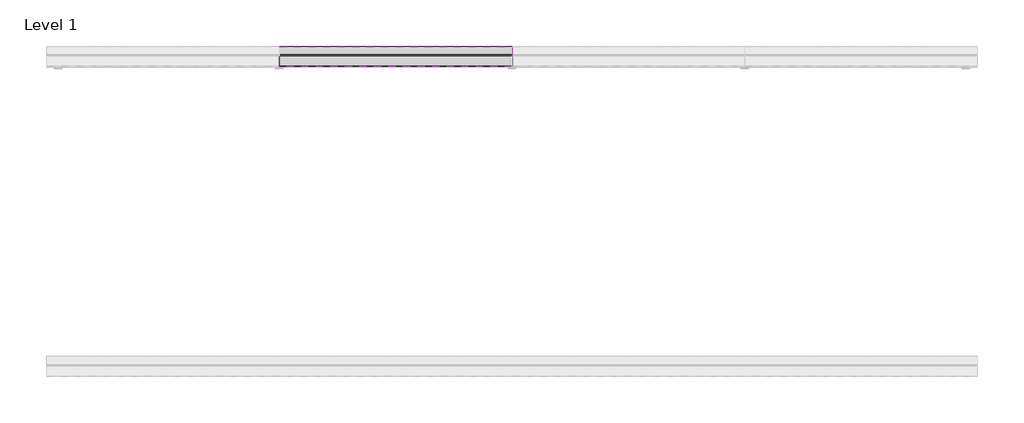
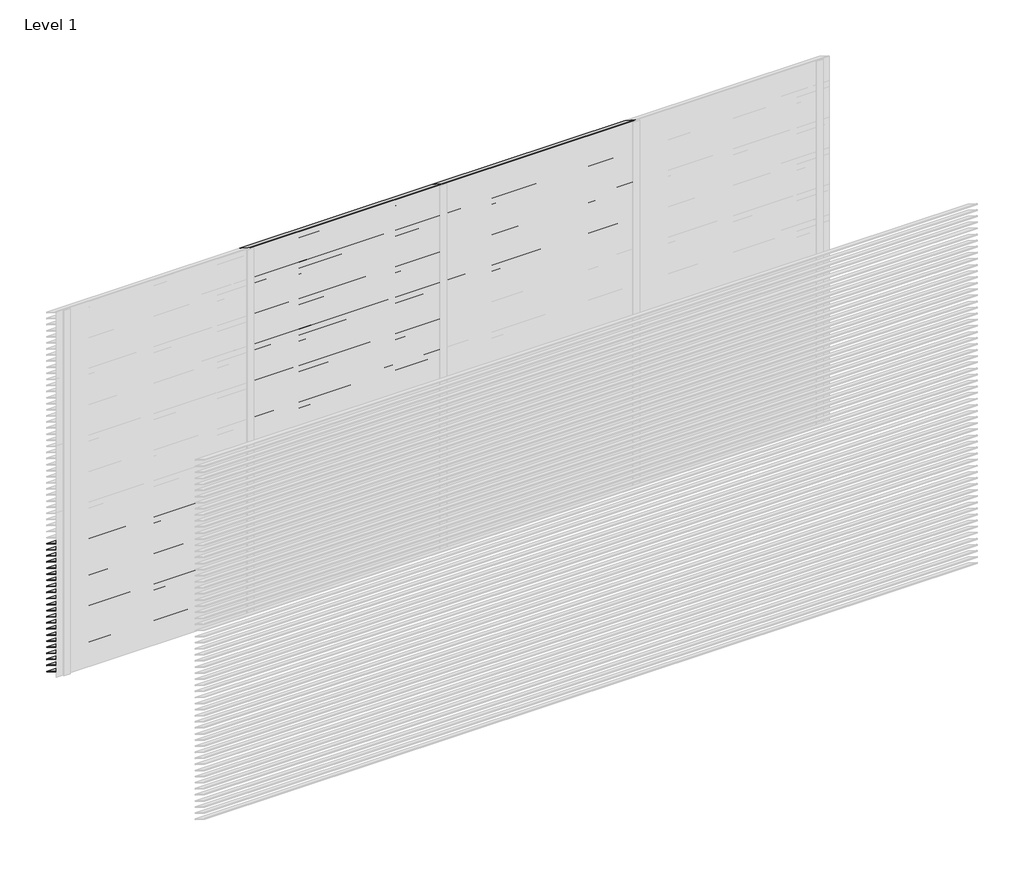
# One storey, part 12 of 13: 101 proxies.
"""IFC4 building model written with IfcOpenShell, lengths in millimetres."""

from ifc_helpers import new_model, si_unit, frame, origin, place, context, project, spatial, polyline, outline, extrude, element, save

model = new_model("IFC4")

# Units and contexts
model_context = context("Model", 3, world=origin())
ifc_project = project(units=[si_unit("LENGTHUNIT", "METRE", prefix="MILLI")], contexts=[model_context])

# Site, building, storey
site = spatial("IfcSite", under=ifc_project)
building = spatial("IfcBuilding", under=site)
storey = spatial("IfcBuildingStorey", under=building, Name="Level 1", Elevation=0.0)

# Proxies
placement = place(None, origin())
element("IfcBuildingElementProxy", 1, Name="Wall Sweeps", at=placement, inside=storey, context=model_context, shape_type="SweptSolid", body=[
    extrude(outline(polyline([(5.0, 1100.0), (5.0, 1098.0), (132.0, 1019.0), (132.0, 1013.0), (3.0, 1093.2440945), (3.0, 1100.0), (5.0, 1100.0)])), frame((0.0, 0.0, 0.0), z_axis=(1.0, 0.0, 0.0), x_axis=(0.0, 1.0, 0.0)), (0.0, 0.0, 1.0), 1500.0),
])
element("IfcBuildingElementProxy", 2, Name="Wall Sweeps", at=placement, inside=storey, context=model_context, shape_type="SweptSolid", body=[
    extrude(outline(polyline([(5.0, 1050.0), (5.0, 1048.0), (132.0, 969.0), (132.0, 963.0), (3.0, 1043.2440945), (3.0, 1050.0), (5.0, 1050.0)])), frame((0.0, 0.0, 0.0), z_axis=(1.0, 0.0, 0.0), x_axis=(0.0, 1.0, 0.0)), (0.0, 0.0, 1.0), 1500.0),
])
element("IfcBuildingElementProxy", 3, Name="Wall Sweeps", at=placement, inside=storey, context=model_context, shape_type="SweptSolid", body=[
    extrude(outline(polyline([(5.0, 1000.0), (5.0, 998.0), (132.0, 919.0), (132.0, 913.0), (3.0, 993.2440945), (3.0, 1000.0), (5.0, 1000.0)])), frame((0.0, 0.0, 0.0), z_axis=(1.0, 0.0, 0.0), x_axis=(0.0, 1.0, 0.0)), (0.0, 0.0, 1.0), 1500.0),
])
element("IfcBuildingElementProxy", 4, Name="Wall Sweeps", at=placement, inside=storey, context=model_context, shape_type="SweptSolid", body=[
    extrude(outline(polyline([(5.0, 950.0), (5.0, 948.0), (132.0, 869.0), (132.0, 863.0), (3.0, 943.2440945), (3.0, 950.0), (5.0, 950.0)])), frame((0.0, 0.0, 0.0), z_axis=(1.0, 0.0, 0.0), x_axis=(0.0, 1.0, 0.0)), (0.0, 0.0, 1.0), 1500.0),
])
element("IfcBuildingElementProxy", 5, Name="Wall Sweeps", at=placement, inside=storey, context=model_context, shape_type="SweptSolid", body=[
    extrude(outline(polyline([(5.0, 900.0), (5.0, 898.0), (132.0, 819.0), (132.0, 813.0), (3.0, 893.2440945), (3.0, 900.0), (5.0, 900.0)])), frame((0.0, 0.0, 0.0), z_axis=(1.0, 0.0, 0.0), x_axis=(0.0, 1.0, 0.0)), (0.0, 0.0, 1.0), 1500.0),
])
element("IfcBuildingElementProxy", 6, Name="Wall Sweeps", at=placement, inside=storey, context=model_context, shape_type="SweptSolid", body=[
    extrude(outline(polyline([(5.0, 850.0), (5.0, 848.0), (132.0, 769.0), (132.0, 763.0), (3.0, 843.2440945), (3.0, 850.0), (5.0, 850.0)])), frame((0.0, 0.0, 0.0), z_axis=(1.0, 0.0, 0.0), x_axis=(0.0, 1.0, 0.0)), (0.0, 0.0, 1.0), 1500.0),
])
element("IfcBuildingElementProxy", 7, Name="Wall Sweeps", at=placement, inside=storey, context=model_context, shape_type="SweptSolid", body=[
    extrude(outline(polyline([(5.0, 800.0), (5.0, 798.0), (132.0, 719.0), (132.0, 713.0), (3.0, 793.2440945), (3.0, 800.0), (5.0, 800.0)])), frame((0.0, 0.0, 0.0), z_axis=(1.0, 0.0, 0.0), x_axis=(0.0, 1.0, 0.0)), (0.0, 0.0, 1.0), 1500.0),
])
element("IfcBuildingElementProxy", 8, Name="Wall Sweeps", at=placement, inside=storey, context=model_context, shape_type="SweptSolid", body=[
    extrude(outline(polyline([(5.0, 750.0), (5.0, 748.0), (132.0, 669.0), (132.0, 663.0), (3.0, 743.2440945), (3.0, 750.0), (5.0, 750.0)])), frame((0.0, 0.0, 0.0), z_axis=(1.0, 0.0, 0.0), x_axis=(0.0, 1.0, 0.0)), (0.0, 0.0, 1.0), 1500.0),
])
element("IfcBuildingElementProxy", 9, Name="Wall Sweeps", at=placement, inside=storey, context=model_context, shape_type="SweptSolid", body=[
    extrude(outline(polyline([(5.0, 700.0), (5.0, 698.0), (132.0, 619.0), (132.0, 613.0), (3.0, 693.2440945), (3.0, 700.0), (5.0, 700.0)])), frame((0.0, 0.0, 0.0), z_axis=(1.0, 0.0, 0.0), x_axis=(0.0, 1.0, 0.0)), (0.0, 0.0, 1.0), 1500.0),
])
element("IfcBuildingElementProxy", 10, Name="Wall Sweeps", at=placement, inside=storey, context=model_context, shape_type="SweptSolid", body=[
    extrude(outline(polyline([(5.0, 650.0), (5.0, 648.0), (132.0, 569.0), (132.0, 563.0), (3.0, 643.2440945), (3.0, 650.0), (5.0, 650.0)])), frame((0.0, 0.0, 0.0), z_axis=(1.0, 0.0, 0.0), x_axis=(0.0, 1.0, 0.0)), (0.0, 0.0, 1.0), 1500.0),
])
element("IfcBuildingElementProxy", 11, Name="Wall Sweeps", at=placement, inside=storey, context=model_context, shape_type="SweptSolid", body=[
    extrude(outline(polyline([(5.0, 600.0), (5.0, 598.0), (132.0, 519.0), (132.0, 513.0), (3.0, 593.2440945), (3.0, 600.0), (5.0, 600.0)])), frame((0.0, 0.0, 0.0), z_axis=(1.0, 0.0, 0.0), x_axis=(0.0, 1.0, 0.0)), (0.0, 0.0, 1.0), 1500.0),
])
element("IfcBuildingElementProxy", 12, Name="Wall Sweeps", at=placement, inside=storey, context=model_context, shape_type="SweptSolid", body=[
    extrude(outline(polyline([(5.0, 550.0), (5.0, 548.0), (132.0, 469.0), (132.0, 463.0), (3.0, 543.2440945), (3.0, 550.0), (5.0, 550.0)])), frame((0.0, 0.0, 0.0), z_axis=(1.0, 0.0, 0.0), x_axis=(0.0, 1.0, 0.0)), (0.0, 0.0, 1.0), 1500.0),
])
element("IfcBuildingElementProxy", 13, Name="Wall Sweeps", at=placement, inside=storey, context=model_context, shape_type="SweptSolid", body=[
    extrude(outline(polyline([(5.0, 500.0), (5.0, 498.0), (132.0, 419.0), (132.0, 413.0), (3.0, 493.2440945), (3.0, 500.0), (5.0, 500.0)])), frame((0.0, 0.0, 0.0), z_axis=(1.0, 0.0, 0.0), x_axis=(0.0, 1.0, 0.0)), (0.0, 0.0, 1.0), 1500.0),
])
element("IfcBuildingElementProxy", 14, Name="Wall Sweeps", at=placement, inside=storey, context=model_context, shape_type="SweptSolid", body=[
    extrude(outline(polyline([(5.0, 450.0), (5.0, 448.0), (132.0, 369.0), (132.0, 363.0), (3.0, 443.2440945), (3.0, 450.0), (5.0, 450.0)])), frame((0.0, 0.0, 0.0), z_axis=(1.0, 0.0, 0.0), x_axis=(0.0, 1.0, 0.0)), (0.0, 0.0, 1.0), 1500.0),
])
element("IfcBuildingElementProxy", 15, Name="Wall Sweeps", at=placement, inside=storey, context=model_context, shape_type="SweptSolid", body=[
    extrude(outline(polyline([(5.0, 400.0), (5.0, 398.0), (132.0, 319.0), (132.0, 313.0), (3.0, 393.2440945), (3.0, 400.0), (5.0, 400.0)])), frame((0.0, 0.0, 0.0), z_axis=(1.0, 0.0, 0.0), x_axis=(0.0, 1.0, 0.0)), (0.0, 0.0, 1.0), 1500.0),
])
element("IfcBuildingElementProxy", 16, Name="Wall Sweeps", at=placement, inside=storey, context=model_context, shape_type="SweptSolid", body=[
    extrude(outline(polyline([(5.0, 350.0), (5.0, 348.0), (132.0, 269.0), (132.0, 263.0), (3.0, 343.2440945), (3.0, 350.0), (5.0, 350.0)])), frame((0.0, 0.0, 0.0), z_axis=(1.0, 0.0, 0.0), x_axis=(0.0, 1.0, 0.0)), (0.0, 0.0, 1.0), 1500.0),
])
element("IfcBuildingElementProxy", 17, Name="Wall Sweeps", at=placement, inside=storey, context=model_context, shape_type="SweptSolid", body=[
    extrude(outline(polyline([(5.0, 300.0), (5.0, 298.0), (132.0, 219.0), (132.0, 213.0), (3.0, 293.2440945), (3.0, 300.0), (5.0, 300.0)])), frame((0.0, 0.0, 0.0), z_axis=(1.0, 0.0, 0.0), x_axis=(0.0, 1.0, 0.0)), (0.0, 0.0, 1.0), 1500.0),
])
element("IfcBuildingElementProxy", 18, Name="Wall Sweeps", at=placement, inside=storey, context=model_context, shape_type="SweptSolid", body=[
    extrude(outline(polyline([(5.0, 250.0), (5.0, 248.0), (132.0, 169.0), (132.0, 163.0), (3.0, 243.2440945), (3.0, 250.0), (5.0, 250.0)])), frame((0.0, 0.0, 0.0), z_axis=(1.0, 0.0, 0.0), x_axis=(0.0, 1.0, 0.0)), (0.0, 0.0, 1.0), 1500.0),
])
element("IfcBuildingElementProxy", 19, Name="Wall Sweeps", at=placement, inside=storey, context=model_context, shape_type="SweptSolid", body=[
    extrude(outline(polyline([(5.0, 200.0), (5.0, 198.0), (132.0, 119.0), (132.0, 113.0), (3.0, 193.2440945), (3.0, 200.0), (5.0, 200.0)])), frame((0.0, 0.0, 0.0), z_axis=(1.0, 0.0, 0.0), x_axis=(0.0, 1.0, 0.0)), (0.0, 0.0, 1.0), 1500.0),
])
element("IfcBuildingElementProxy", 20, Name="Wall Sweeps", at=placement, inside=storey, context=model_context, shape_type="SweptSolid", body=[
    extrude(outline(polyline([(5.0, 150.0), (5.0, 148.0), (132.0, 69.0), (132.0, 63.0), (3.0, 143.2440945), (3.0, 150.0), (5.0, 150.0)])), frame((0.0, 0.0, 0.0), z_axis=(1.0, 0.0, 0.0), x_axis=(0.0, 1.0, 0.0)), (0.0, 0.0, 1.0), 1500.0),
])
element("IfcBuildingElementProxy", 21, Name="Wall Sweeps", at=placement, inside=storey, context=model_context, shape_type="SweptSolid", body=[
    extrude(outline(polyline([(5.0, 100.0), (5.0, 98.0), (132.0, 19.0), (132.0, 13.0), (3.0, 93.2440945), (3.0, 100.0), (5.0, 100.0)])), frame((0.0, 0.0, 0.0), z_axis=(1.0, 0.0, 0.0), x_axis=(0.0, 1.0, 0.0)), (0.0, 0.0, 1.0), 1500.0),
])
element("IfcBuildingElementProxy", 22, Name="Wall Sweeps", at=placement, inside=storey, context=model_context, shape_type="SweptSolid", body=[
    extrude(outline(polyline([(5.0, 50.0), (5.0, 48.0), (132.0, -31.0), (132.0, -37.0), (3.0, 43.2440945), (3.0, 50.0), (5.0, 50.0)])), frame((0.0, 0.0, 0.0), z_axis=(1.0, 0.0, 0.0), x_axis=(0.0, 1.0, 0.0)), (0.0, 0.0, 1.0), 1500.0),
])
element("IfcBuildingElementProxy", 23, Name="Wall Sweeps", at=placement, inside=storey, context=model_context, shape_type="SweptSolid", body=[
    extrude(outline(polyline([(5.0, 3000.0), (5.0, 2998.0), (132.0, 2919.0), (132.0, 2913.0), (3.0, 2993.2440945), (3.0, 3000.0), (5.0, 3000.0)])), frame((1500.0, 0.0, 0.0), z_axis=(1.0, 0.0, 0.0), x_axis=(0.0, 1.0, 0.0)), (0.0, 0.0, 1.0), 1500.0),
])
element("IfcBuildingElementProxy", 24, Name="Wall Sweeps", at=placement, inside=storey, context=model_context, shape_type="SweptSolid", body=[
    extrude(outline(polyline([(5.0, 2950.0), (5.0, 2948.0), (132.0, 2869.0), (132.0, 2863.0), (3.0, 2943.2440945), (3.0, 2950.0), (5.0, 2950.0)])), frame((1500.0, 0.0, 0.0), z_axis=(1.0, 0.0, 0.0), x_axis=(0.0, 1.0, 0.0)), (0.0, 0.0, 1.0), 1500.0),
])
element("IfcBuildingElementProxy", 25, Name="Wall Sweeps", at=placement, inside=storey, context=model_context, shape_type="SweptSolid", body=[
    extrude(outline(polyline([(5.0, 2900.0), (5.0, 2898.0), (132.0, 2819.0), (132.0, 2813.0), (3.0, 2893.2440945), (3.0, 2900.0), (5.0, 2900.0)])), frame((1500.0, 0.0, 0.0), z_axis=(1.0, 0.0, 0.0), x_axis=(0.0, 1.0, 0.0)), (0.0, 0.0, 1.0), 1500.0),
])
element("IfcBuildingElementProxy", 26, Name="Wall Sweeps", at=placement, inside=storey, context=model_context, shape_type="SweptSolid", body=[
    extrude(outline(polyline([(5.0, 2850.0), (5.0, 2848.0), (132.0, 2769.0), (132.0, 2763.0), (3.0, 2843.2440945), (3.0, 2850.0), (5.0, 2850.0)])), frame((1500.0, 0.0, 0.0), z_axis=(1.0, 0.0, 0.0), x_axis=(0.0, 1.0, 0.0)), (0.0, 0.0, 1.0), 1500.0),
])
element("IfcBuildingElementProxy", 27, Name="Wall Sweeps", at=placement, inside=storey, context=model_context, shape_type="SweptSolid", body=[
    extrude(outline(polyline([(5.0, 2800.0), (5.0, 2798.0), (132.0, 2719.0), (132.0, 2713.0), (3.0, 2793.2440945), (3.0, 2800.0), (5.0, 2800.0)])), frame((1500.0, 0.0, 0.0), z_axis=(1.0, 0.0, 0.0), x_axis=(0.0, 1.0, 0.0)), (0.0, 0.0, 1.0), 1500.0),
])
element("IfcBuildingElementProxy", 28, Name="Wall Sweeps", at=placement, inside=storey, context=model_context, shape_type="SweptSolid", body=[
    extrude(outline(polyline([(5.0, 2750.0), (5.0, 2748.0), (132.0, 2669.0), (132.0, 2663.0), (3.0, 2743.2440945), (3.0, 2750.0), (5.0, 2750.0)])), frame((1500.0, 0.0, 0.0), z_axis=(1.0, 0.0, 0.0), x_axis=(0.0, 1.0, 0.0)), (0.0, 0.0, 1.0), 1500.0),
])
element("IfcBuildingElementProxy", 29, Name="Wall Sweeps", at=placement, inside=storey, context=model_context, shape_type="SweptSolid", body=[
    extrude(outline(polyline([(5.0, 2700.0), (5.0, 2698.0), (132.0, 2619.0), (132.0, 2613.0), (3.0, 2693.2440945), (3.0, 2700.0), (5.0, 2700.0)])), frame((1500.0, 0.0, 0.0), z_axis=(1.0, 0.0, 0.0), x_axis=(0.0, 1.0, 0.0)), (0.0, 0.0, 1.0), 1500.0),
])
element("IfcBuildingElementProxy", 30, Name="Wall Sweeps", at=placement, inside=storey, context=model_context, shape_type="SweptSolid", body=[
    extrude(outline(polyline([(5.0, 2650.0), (5.0, 2648.0), (132.0, 2569.0), (132.0, 2563.0), (3.0, 2643.2440945), (3.0, 2650.0), (5.0, 2650.0)])), frame((1500.0, 0.0, 0.0), z_axis=(1.0, 0.0, 0.0), x_axis=(0.0, 1.0, 0.0)), (0.0, 0.0, 1.0), 1500.0),
])
element("IfcBuildingElementProxy", 31, Name="Wall Sweeps", at=placement, inside=storey, context=model_context, shape_type="SweptSolid", body=[
    extrude(outline(polyline([(5.0, 2600.0), (5.0, 2598.0), (132.0, 2519.0), (132.0, 2513.0), (3.0, 2593.2440945), (3.0, 2600.0), (5.0, 2600.0)])), frame((1500.0, 0.0, 0.0), z_axis=(1.0, 0.0, 0.0), x_axis=(0.0, 1.0, 0.0)), (0.0, 0.0, 1.0), 1500.0),
])
element("IfcBuildingElementProxy", 32, Name="Wall Sweeps", at=placement, inside=storey, context=model_context, shape_type="SweptSolid", body=[
    extrude(outline(polyline([(5.0, 2550.0), (5.0, 2548.0), (132.0, 2469.0), (132.0, 2463.0), (3.0, 2543.2440945), (3.0, 2550.0), (5.0, 2550.0)])), frame((1500.0, 0.0, 0.0), z_axis=(1.0, 0.0, 0.0), x_axis=(0.0, 1.0, 0.0)), (0.0, 0.0, 1.0), 1500.0),
])
element("IfcBuildingElementProxy", 33, Name="Wall Sweeps", at=placement, inside=storey, context=model_context, shape_type="SweptSolid", body=[
    extrude(outline(polyline([(5.0, 2500.0), (5.0, 2498.0), (132.0, 2419.0), (132.0, 2413.0), (3.0, 2493.2440945), (3.0, 2500.0), (5.0, 2500.0)])), frame((1500.0, 0.0, 0.0), z_axis=(1.0, 0.0, 0.0), x_axis=(0.0, 1.0, 0.0)), (0.0, 0.0, 1.0), 1500.0),
])
element("IfcBuildingElementProxy", 34, Name="Wall Sweeps", at=placement, inside=storey, context=model_context, shape_type="SweptSolid", body=[
    extrude(outline(polyline([(5.0, 2450.0), (5.0, 2448.0), (132.0, 2369.0), (132.0, 2363.0), (3.0, 2443.2440945), (3.0, 2450.0), (5.0, 2450.0)])), frame((1500.0, 0.0, 0.0), z_axis=(1.0, 0.0, 0.0), x_axis=(0.0, 1.0, 0.0)), (0.0, 0.0, 1.0), 1500.0),
])
element("IfcBuildingElementProxy", 35, Name="Wall Sweeps", at=placement, inside=storey, context=model_context, shape_type="SweptSolid", body=[
    extrude(outline(polyline([(5.0, 2400.0), (5.0, 2398.0), (132.0, 2319.0), (132.0, 2313.0), (3.0, 2393.2440945), (3.0, 2400.0), (5.0, 2400.0)])), frame((1500.0, 0.0, 0.0), z_axis=(1.0, 0.0, 0.0), x_axis=(0.0, 1.0, 0.0)), (0.0, 0.0, 1.0), 1500.0),
])
element("IfcBuildingElementProxy", 36, Name="Wall Sweeps", at=placement, inside=storey, context=model_context, shape_type="SweptSolid", body=[
    extrude(outline(polyline([(5.0, 2350.0), (5.0, 2348.0), (132.0, 2269.0), (132.0, 2263.0), (3.0, 2343.2440945), (3.0, 2350.0), (5.0, 2350.0)])), frame((1500.0, 0.0, 0.0), z_axis=(1.0, 0.0, 0.0), x_axis=(0.0, 1.0, 0.0)), (0.0, 0.0, 1.0), 1500.0),
])
element("IfcBuildingElementProxy", 37, Name="Wall Sweeps", at=placement, inside=storey, context=model_context, shape_type="SweptSolid", body=[
    extrude(outline(polyline([(5.0, 2300.0), (5.0, 2298.0), (132.0, 2219.0), (132.0, 2213.0), (3.0, 2293.2440945), (3.0, 2300.0), (5.0, 2300.0)])), frame((1500.0, 0.0, 0.0), z_axis=(1.0, 0.0, 0.0), x_axis=(0.0, 1.0, 0.0)), (0.0, 0.0, 1.0), 1500.0),
])
element("IfcBuildingElementProxy", 38, Name="Wall Sweeps", at=placement, inside=storey, context=model_context, shape_type="SweptSolid", body=[
    extrude(outline(polyline([(5.0, 2250.0), (5.0, 2248.0), (132.0, 2169.0), (132.0, 2163.0), (3.0, 2243.2440945), (3.0, 2250.0), (5.0, 2250.0)])), frame((1500.0, 0.0, 0.0), z_axis=(1.0, 0.0, 0.0), x_axis=(0.0, 1.0, 0.0)), (0.0, 0.0, 1.0), 1500.0),
])
element("IfcBuildingElementProxy", 39, Name="Wall Sweeps", at=placement, inside=storey, context=model_context, shape_type="SweptSolid", body=[
    extrude(outline(polyline([(5.0, 2200.0), (5.0, 2198.0), (132.0, 2119.0), (132.0, 2113.0), (3.0, 2193.2440945), (3.0, 2200.0), (5.0, 2200.0)])), frame((1500.0, 0.0, 0.0), z_axis=(1.0, 0.0, 0.0), x_axis=(0.0, 1.0, 0.0)), (0.0, 0.0, 1.0), 1500.0),
])
element("IfcBuildingElementProxy", 40, Name="Wall Sweeps", at=placement, inside=storey, context=model_context, shape_type="SweptSolid", body=[
    extrude(outline(polyline([(5.0, 2150.0), (5.0, 2148.0), (132.0, 2069.0), (132.0, 2063.0), (3.0, 2143.2440945), (3.0, 2150.0), (5.0, 2150.0)])), frame((1500.0, 0.0, 0.0), z_axis=(1.0, 0.0, 0.0), x_axis=(0.0, 1.0, 0.0)), (0.0, 0.0, 1.0), 1500.0),
])
element("IfcBuildingElementProxy", 41, Name="Wall Sweeps", at=placement, inside=storey, context=model_context, shape_type="SweptSolid", body=[
    extrude(outline(polyline([(5.0, 2100.0), (5.0, 2098.0), (132.0, 2019.0), (132.0, 2013.0), (3.0, 2093.2440945), (3.0, 2100.0), (5.0, 2100.0)])), frame((1500.0, 0.0, 0.0), z_axis=(1.0, 0.0, 0.0), x_axis=(0.0, 1.0, 0.0)), (0.0, 0.0, 1.0), 1500.0),
])
element("IfcBuildingElementProxy", 42, Name="Wall Sweeps", at=placement, inside=storey, context=model_context, shape_type="SweptSolid", body=[
    extrude(outline(polyline([(5.0, 2050.0), (5.0, 2048.0), (132.0, 1969.0), (132.0, 1963.0), (3.0, 2043.2440945), (3.0, 2050.0), (5.0, 2050.0)])), frame((1500.0, 0.0, 0.0), z_axis=(1.0, 0.0, 0.0), x_axis=(0.0, 1.0, 0.0)), (0.0, 0.0, 1.0), 1500.0),
])
element("IfcBuildingElementProxy", 43, Name="Wall Sweeps", at=placement, inside=storey, context=model_context, shape_type="SweptSolid", body=[
    extrude(outline(polyline([(5.0, 2000.0), (5.0, 1998.0), (132.0, 1919.0), (132.0, 1913.0), (3.0, 1993.2440945), (3.0, 2000.0), (5.0, 2000.0)])), frame((1500.0, 0.0, 0.0), z_axis=(1.0, 0.0, 0.0), x_axis=(0.0, 1.0, 0.0)), (0.0, 0.0, 1.0), 1500.0),
])
element("IfcBuildingElementProxy", 44, Name="Wall Sweeps", at=placement, inside=storey, context=model_context, shape_type="SweptSolid", body=[
    extrude(outline(polyline([(5.0, 1950.0), (5.0, 1948.0), (132.0, 1869.0), (132.0, 1863.0), (3.0, 1943.2440945), (3.0, 1950.0), (5.0, 1950.0)])), frame((1500.0, 0.0, 0.0), z_axis=(1.0, 0.0, 0.0), x_axis=(0.0, 1.0, 0.0)), (0.0, 0.0, 1.0), 1500.0),
])
element("IfcBuildingElementProxy", 45, Name="Wall Sweeps", at=placement, inside=storey, context=model_context, shape_type="SweptSolid", body=[
    extrude(outline(polyline([(5.0, 1900.0), (5.0, 1898.0), (132.0, 1819.0), (132.0, 1813.0), (3.0, 1893.2440945), (3.0, 1900.0), (5.0, 1900.0)])), frame((1500.0, 0.0, 0.0), z_axis=(1.0, 0.0, 0.0), x_axis=(0.0, 1.0, 0.0)), (0.0, 0.0, 1.0), 1500.0),
])
element("IfcBuildingElementProxy", 46, Name="Wall Sweeps", at=placement, inside=storey, context=model_context, shape_type="SweptSolid", body=[
    extrude(outline(polyline([(5.0, 1850.0), (5.0, 1848.0), (132.0, 1769.0), (132.0, 1763.0), (3.0, 1843.2440945), (3.0, 1850.0), (5.0, 1850.0)])), frame((1500.0, 0.0, 0.0), z_axis=(1.0, 0.0, 0.0), x_axis=(0.0, 1.0, 0.0)), (0.0, 0.0, 1.0), 1500.0),
])
element("IfcBuildingElementProxy", 47, Name="Wall Sweeps", at=placement, inside=storey, context=model_context, shape_type="SweptSolid", body=[
    extrude(outline(polyline([(5.0, 1800.0), (5.0, 1798.0), (132.0, 1719.0), (132.0, 1713.0), (3.0, 1793.2440945), (3.0, 1800.0), (5.0, 1800.0)])), frame((1500.0, 0.0, 0.0), z_axis=(1.0, 0.0, 0.0), x_axis=(0.0, 1.0, 0.0)), (0.0, 0.0, 1.0), 1500.0),
])
element("IfcBuildingElementProxy", 48, Name="Wall Sweeps", at=placement, inside=storey, context=model_context, shape_type="SweptSolid", body=[
    extrude(outline(polyline([(5.0, 1750.0), (5.0, 1748.0), (132.0, 1669.0), (132.0, 1663.0), (3.0, 1743.2440945), (3.0, 1750.0), (5.0, 1750.0)])), frame((1500.0, 0.0, 0.0), z_axis=(1.0, 0.0, 0.0), x_axis=(0.0, 1.0, 0.0)), (0.0, 0.0, 1.0), 1500.0),
])
element("IfcBuildingElementProxy", 49, Name="Wall Sweeps", at=placement, inside=storey, context=model_context, shape_type="SweptSolid", body=[
    extrude(outline(polyline([(5.0, 1700.0), (5.0, 1698.0), (132.0, 1619.0), (132.0, 1613.0), (3.0, 1693.2440945), (3.0, 1700.0), (5.0, 1700.0)])), frame((1500.0, 0.0, 0.0), z_axis=(1.0, 0.0, 0.0), x_axis=(0.0, 1.0, 0.0)), (0.0, 0.0, 1.0), 1500.0),
])
element("IfcBuildingElementProxy", 50, Name="Wall Sweeps", at=placement, inside=storey, context=model_context, shape_type="SweptSolid", body=[
    extrude(outline(polyline([(5.0, 1650.0), (5.0, 1648.0), (132.0, 1569.0), (132.0, 1563.0), (3.0, 1643.2440945), (3.0, 1650.0), (5.0, 1650.0)])), frame((1500.0, 0.0, 0.0), z_axis=(1.0, 0.0, 0.0), x_axis=(0.0, 1.0, 0.0)), (0.0, 0.0, 1.0), 1500.0),
])
element("IfcBuildingElementProxy", 51, Name="Wall Sweeps", at=placement, inside=storey, context=model_context, shape_type="SweptSolid", body=[
    extrude(outline(polyline([(5.0, 1600.0), (5.0, 1598.0), (132.0, 1519.0), (132.0, 1513.0), (3.0, 1593.2440945), (3.0, 1600.0), (5.0, 1600.0)])), frame((1500.0, 0.0, 0.0), z_axis=(1.0, 0.0, 0.0), x_axis=(0.0, 1.0, 0.0)), (0.0, 0.0, 1.0), 1500.0),
])
element("IfcBuildingElementProxy", 52, Name="Wall Sweeps", at=placement, inside=storey, context=model_context, shape_type="SweptSolid", body=[
    extrude(outline(polyline([(5.0, 1550.0), (5.0, 1548.0), (132.0, 1469.0), (132.0, 1463.0), (3.0, 1543.2440945), (3.0, 1550.0), (5.0, 1550.0)])), frame((1500.0, 0.0, 0.0), z_axis=(1.0, 0.0, 0.0), x_axis=(0.0, 1.0, 0.0)), (0.0, 0.0, 1.0), 1500.0),
])
element("IfcBuildingElementProxy", 53, Name="Wall Sweeps", at=placement, inside=storey, context=model_context, shape_type="SweptSolid", body=[
    extrude(outline(polyline([(5.0, 1500.0), (5.0, 1498.0), (132.0, 1419.0), (132.0, 1413.0), (3.0, 1493.2440945), (3.0, 1500.0), (5.0, 1500.0)])), frame((1500.0, 0.0, 0.0), z_axis=(1.0, 0.0, 0.0), x_axis=(0.0, 1.0, 0.0)), (0.0, 0.0, 1.0), 1500.0),
])
element("IfcBuildingElementProxy", 54, Name="Wall Sweeps", at=placement, inside=storey, context=model_context, shape_type="SweptSolid", body=[
    extrude(outline(polyline([(5.0, 1450.0), (5.0, 1448.0), (132.0, 1369.0), (132.0, 1363.0), (3.0, 1443.2440945), (3.0, 1450.0), (5.0, 1450.0)])), frame((1500.0, 0.0, 0.0), z_axis=(1.0, 0.0, 0.0), x_axis=(0.0, 1.0, 0.0)), (0.0, 0.0, 1.0), 1500.0),
])
element("IfcBuildingElementProxy", 55, Name="Wall Sweeps", at=placement, inside=storey, context=model_context, shape_type="SweptSolid", body=[
    extrude(outline(polyline([(5.0, 1400.0), (5.0, 1398.0), (132.0, 1319.0), (132.0, 1313.0), (3.0, 1393.2440945), (3.0, 1400.0), (5.0, 1400.0)])), frame((1500.0, 0.0, 0.0), z_axis=(1.0, 0.0, 0.0), x_axis=(0.0, 1.0, 0.0)), (0.0, 0.0, 1.0), 1500.0),
])
element("IfcBuildingElementProxy", 56, Name="Wall Sweeps", at=placement, inside=storey, context=model_context, shape_type="SweptSolid", body=[
    extrude(outline(polyline([(5.0, 1350.0), (5.0, 1348.0), (132.0, 1269.0), (132.0, 1263.0), (3.0, 1343.2440945), (3.0, 1350.0), (5.0, 1350.0)])), frame((1500.0, 0.0, 0.0), z_axis=(1.0, 0.0, 0.0), x_axis=(0.0, 1.0, 0.0)), (0.0, 0.0, 1.0), 1500.0),
])
element("IfcBuildingElementProxy", 57, Name="Wall Sweeps", at=placement, inside=storey, context=model_context, shape_type="SweptSolid", body=[
    extrude(outline(polyline([(5.0, 1300.0), (5.0, 1298.0), (132.0, 1219.0), (132.0, 1213.0), (3.0, 1293.2440945), (3.0, 1300.0), (5.0, 1300.0)])), frame((1500.0, 0.0, 0.0), z_axis=(1.0, 0.0, 0.0), x_axis=(0.0, 1.0, 0.0)), (0.0, 0.0, 1.0), 1500.0),
])
element("IfcBuildingElementProxy", 58, Name="Wall Sweeps", at=placement, inside=storey, context=model_context, shape_type="SweptSolid", body=[
    extrude(outline(polyline([(5.0, 1250.0), (5.0, 1248.0), (132.0, 1169.0), (132.0, 1163.0), (3.0, 1243.2440945), (3.0, 1250.0), (5.0, 1250.0)])), frame((1500.0, 0.0, 0.0), z_axis=(1.0, 0.0, 0.0), x_axis=(0.0, 1.0, 0.0)), (0.0, 0.0, 1.0), 1500.0),
])
element("IfcBuildingElementProxy", 59, Name="Wall Sweeps", at=placement, inside=storey, context=model_context, shape_type="SweptSolid", body=[
    extrude(outline(polyline([(5.0, 1200.0), (5.0, 1198.0), (132.0, 1119.0), (132.0, 1113.0), (3.0, 1193.2440945), (3.0, 1200.0), (5.0, 1200.0)])), frame((1500.0, 0.0, 0.0), z_axis=(1.0, 0.0, 0.0), x_axis=(0.0, 1.0, 0.0)), (0.0, 0.0, 1.0), 1500.0),
])
element("IfcBuildingElementProxy", 60, Name="Wall Sweeps", at=placement, inside=storey, context=model_context, shape_type="SweptSolid", body=[
    extrude(outline(polyline([(5.0, 1150.0), (5.0, 1148.0), (132.0, 1069.0), (132.0, 1063.0), (3.0, 1143.2440945), (3.0, 1150.0), (5.0, 1150.0)])), frame((1500.0, 0.0, 0.0), z_axis=(1.0, 0.0, 0.0), x_axis=(0.0, 1.0, 0.0)), (0.0, 0.0, 1.0), 1500.0),
])
element("IfcBuildingElementProxy", 61, Name="Wall Sweeps", at=placement, inside=storey, context=model_context, shape_type="SweptSolid", body=[
    extrude(outline(polyline([(5.0, 1100.0), (5.0, 1098.0), (132.0, 1019.0), (132.0, 1013.0), (3.0, 1093.2440945), (3.0, 1100.0), (5.0, 1100.0)])), frame((1500.0, 0.0, 0.0), z_axis=(1.0, 0.0, 0.0), x_axis=(0.0, 1.0, 0.0)), (0.0, 0.0, 1.0), 1500.0),
])
element("IfcBuildingElementProxy", 62, Name="Wall Sweeps", at=placement, inside=storey, context=model_context, shape_type="SweptSolid", body=[
    extrude(outline(polyline([(5.0, 1050.0), (5.0, 1048.0), (132.0, 969.0), (132.0, 963.0), (3.0, 1043.2440945), (3.0, 1050.0), (5.0, 1050.0)])), frame((1500.0, 0.0, 0.0), z_axis=(1.0, 0.0, 0.0), x_axis=(0.0, 1.0, 0.0)), (0.0, 0.0, 1.0), 1500.0),
])
element("IfcBuildingElementProxy", 63, Name="Wall Sweeps", at=placement, inside=storey, context=model_context, shape_type="SweptSolid", body=[
    extrude(outline(polyline([(5.0, 1000.0), (5.0, 998.0), (132.0, 919.0), (132.0, 913.0), (3.0, 993.2440945), (3.0, 1000.0), (5.0, 1000.0)])), frame((1500.0, 0.0, 0.0), z_axis=(1.0, 0.0, 0.0), x_axis=(0.0, 1.0, 0.0)), (0.0, 0.0, 1.0), 1500.0),
])
element("IfcBuildingElementProxy", 64, Name="Wall Sweeps", at=placement, inside=storey, context=model_context, shape_type="SweptSolid", body=[
    extrude(outline(polyline([(5.0, 950.0), (5.0, 948.0), (132.0, 869.0), (132.0, 863.0), (3.0, 943.2440945), (3.0, 950.0), (5.0, 950.0)])), frame((1500.0, 0.0, 0.0), z_axis=(1.0, 0.0, 0.0), x_axis=(0.0, 1.0, 0.0)), (0.0, 0.0, 1.0), 1500.0),
])
element("IfcBuildingElementProxy", 65, Name="Wall Sweeps", at=placement, inside=storey, context=model_context, shape_type="SweptSolid", body=[
    extrude(outline(polyline([(5.0, 900.0), (5.0, 898.0), (132.0, 819.0), (132.0, 813.0), (3.0, 893.2440945), (3.0, 900.0), (5.0, 900.0)])), frame((1500.0, 0.0, 0.0), z_axis=(1.0, 0.0, 0.0), x_axis=(0.0, 1.0, 0.0)), (0.0, 0.0, 1.0), 1500.0),
])
element("IfcBuildingElementProxy", 66, Name="Wall Sweeps", at=placement, inside=storey, context=model_context, shape_type="SweptSolid", body=[
    extrude(outline(polyline([(5.0, 850.0), (5.0, 848.0), (132.0, 769.0), (132.0, 763.0), (3.0, 843.2440945), (3.0, 850.0), (5.0, 850.0)])), frame((1500.0, 0.0, 0.0), z_axis=(1.0, 0.0, 0.0), x_axis=(0.0, 1.0, 0.0)), (0.0, 0.0, 1.0), 1500.0),
])
element("IfcBuildingElementProxy", 67, Name="Wall Sweeps", at=placement, inside=storey, context=model_context, shape_type="SweptSolid", body=[
    extrude(outline(polyline([(5.0, 800.0), (5.0, 798.0), (132.0, 719.0), (132.0, 713.0), (3.0, 793.2440945), (3.0, 800.0), (5.0, 800.0)])), frame((1500.0, 0.0, 0.0), z_axis=(1.0, 0.0, 0.0), x_axis=(0.0, 1.0, 0.0)), (0.0, 0.0, 1.0), 1500.0),
])
element("IfcBuildingElementProxy", 68, Name="Wall Sweeps", at=placement, inside=storey, context=model_context, shape_type="SweptSolid", body=[
    extrude(outline(polyline([(5.0, 750.0), (5.0, 748.0), (132.0, 669.0), (132.0, 663.0), (3.0, 743.2440945), (3.0, 750.0), (5.0, 750.0)])), frame((1500.0, 0.0, 0.0), z_axis=(1.0, 0.0, 0.0), x_axis=(0.0, 1.0, 0.0)), (0.0, 0.0, 1.0), 1500.0),
])
element("IfcBuildingElementProxy", 69, Name="Wall Sweeps", at=placement, inside=storey, context=model_context, shape_type="SweptSolid", body=[
    extrude(outline(polyline([(5.0, 700.0), (5.0, 698.0), (132.0, 619.0), (132.0, 613.0), (3.0, 693.2440945), (3.0, 700.0), (5.0, 700.0)])), frame((1500.0, 0.0, 0.0), z_axis=(1.0, 0.0, 0.0), x_axis=(0.0, 1.0, 0.0)), (0.0, 0.0, 1.0), 1500.0),
])
element("IfcBuildingElementProxy", 70, Name="Wall Sweeps", at=placement, inside=storey, context=model_context, shape_type="SweptSolid", body=[
    extrude(outline(polyline([(5.0, 650.0), (5.0, 648.0), (132.0, 569.0), (132.0, 563.0), (3.0, 643.2440945), (3.0, 650.0), (5.0, 650.0)])), frame((1500.0, 0.0, 0.0), z_axis=(1.0, 0.0, 0.0), x_axis=(0.0, 1.0, 0.0)), (0.0, 0.0, 1.0), 1500.0),
])
element("IfcBuildingElementProxy", 71, Name="Wall Sweeps", at=placement, inside=storey, context=model_context, shape_type="SweptSolid", body=[
    extrude(outline(polyline([(5.0, 600.0), (5.0, 598.0), (132.0, 519.0), (132.0, 513.0), (3.0, 593.2440945), (3.0, 600.0), (5.0, 600.0)])), frame((1500.0, 0.0, 0.0), z_axis=(1.0, 0.0, 0.0), x_axis=(0.0, 1.0, 0.0)), (0.0, 0.0, 1.0), 1500.0),
])
element("IfcBuildingElementProxy", 72, Name="Wall Sweeps", at=placement, inside=storey, context=model_context, shape_type="SweptSolid", body=[
    extrude(outline(polyline([(5.0, 550.0), (5.0, 548.0), (132.0, 469.0), (132.0, 463.0), (3.0, 543.2440945), (3.0, 550.0), (5.0, 550.0)])), frame((1500.0, 0.0, 0.0), z_axis=(1.0, 0.0, 0.0), x_axis=(0.0, 1.0, 0.0)), (0.0, 0.0, 1.0), 1500.0),
])
element("IfcBuildingElementProxy", 73, Name="Wall Sweeps", at=placement, inside=storey, context=model_context, shape_type="SweptSolid", body=[
    extrude(outline(polyline([(5.0, 500.0), (5.0, 498.0), (132.0, 419.0), (132.0, 413.0), (3.0, 493.2440945), (3.0, 500.0), (5.0, 500.0)])), frame((1500.0, 0.0, 0.0), z_axis=(1.0, 0.0, 0.0), x_axis=(0.0, 1.0, 0.0)), (0.0, 0.0, 1.0), 1500.0),
])
element("IfcBuildingElementProxy", 74, Name="Wall Sweeps", at=placement, inside=storey, context=model_context, shape_type="SweptSolid", body=[
    extrude(outline(polyline([(5.0, 450.0), (5.0, 448.0), (132.0, 369.0), (132.0, 363.0), (3.0, 443.2440945), (3.0, 450.0), (5.0, 450.0)])), frame((1500.0, 0.0, 0.0), z_axis=(1.0, 0.0, 0.0), x_axis=(0.0, 1.0, 0.0)), (0.0, 0.0, 1.0), 1500.0),
])
element("IfcBuildingElementProxy", 75, Name="Wall Sweeps", at=placement, inside=storey, context=model_context, shape_type="SweptSolid", body=[
    extrude(outline(polyline([(5.0, 400.0), (5.0, 398.0), (132.0, 319.0), (132.0, 313.0), (3.0, 393.2440945), (3.0, 400.0), (5.0, 400.0)])), frame((1500.0, 0.0, 0.0), z_axis=(1.0, 0.0, 0.0), x_axis=(0.0, 1.0, 0.0)), (0.0, 0.0, 1.0), 1500.0),
])
element("IfcBuildingElementProxy", 76, Name="Wall Sweeps", at=placement, inside=storey, context=model_context, shape_type="SweptSolid", body=[
    extrude(outline(polyline([(5.0, 350.0), (5.0, 348.0), (132.0, 269.0), (132.0, 263.0), (3.0, 343.2440945), (3.0, 350.0), (5.0, 350.0)])), frame((1500.0, 0.0, 0.0), z_axis=(1.0, 0.0, 0.0), x_axis=(0.0, 1.0, 0.0)), (0.0, 0.0, 1.0), 1500.0),
])
element("IfcBuildingElementProxy", 77, Name="Wall Sweeps", at=placement, inside=storey, context=model_context, shape_type="SweptSolid", body=[
    extrude(outline(polyline([(5.0, 300.0), (5.0, 298.0), (132.0, 219.0), (132.0, 213.0), (3.0, 293.2440945), (3.0, 300.0), (5.0, 300.0)])), frame((1500.0, 0.0, 0.0), z_axis=(1.0, 0.0, 0.0), x_axis=(0.0, 1.0, 0.0)), (0.0, 0.0, 1.0), 1500.0),
])
element("IfcBuildingElementProxy", 78, Name="Wall Sweeps", at=placement, inside=storey, context=model_context, shape_type="SweptSolid", body=[
    extrude(outline(polyline([(5.0, 250.0), (5.0, 248.0), (132.0, 169.0), (132.0, 163.0), (3.0, 243.2440945), (3.0, 250.0), (5.0, 250.0)])), frame((1500.0, 0.0, 0.0), z_axis=(1.0, 0.0, 0.0), x_axis=(0.0, 1.0, 0.0)), (0.0, 0.0, 1.0), 1500.0),
])
element("IfcBuildingElementProxy", 79, Name="Wall Sweeps", at=placement, inside=storey, context=model_context, shape_type="SweptSolid", body=[
    extrude(outline(polyline([(5.0, 200.0), (5.0, 198.0), (132.0, 119.0), (132.0, 113.0), (3.0, 193.2440945), (3.0, 200.0), (5.0, 200.0)])), frame((1500.0, 0.0, 0.0), z_axis=(1.0, 0.0, 0.0), x_axis=(0.0, 1.0, 0.0)), (0.0, 0.0, 1.0), 1500.0),
])
element("IfcBuildingElementProxy", 80, Name="Wall Sweeps", at=placement, inside=storey, context=model_context, shape_type="SweptSolid", body=[
    extrude(outline(polyline([(5.0, 150.0), (5.0, 148.0), (132.0, 69.0), (132.0, 63.0), (3.0, 143.2440945), (3.0, 150.0), (5.0, 150.0)])), frame((1500.0, 0.0, 0.0), z_axis=(1.0, 0.0, 0.0), x_axis=(0.0, 1.0, 0.0)), (0.0, 0.0, 1.0), 1500.0),
])
element("IfcBuildingElementProxy", 81, Name="Wall Sweeps", at=placement, inside=storey, context=model_context, shape_type="SweptSolid", body=[
    extrude(outline(polyline([(5.0, 100.0), (5.0, 98.0), (132.0, 19.0), (132.0, 13.0), (3.0, 93.2440945), (3.0, 100.0), (5.0, 100.0)])), frame((1500.0, 0.0, 0.0), z_axis=(1.0, 0.0, 0.0), x_axis=(0.0, 1.0, 0.0)), (0.0, 0.0, 1.0), 1500.0),
])
element("IfcBuildingElementProxy", 82, Name="Wall Sweeps", at=placement, inside=storey, context=model_context, shape_type="SweptSolid", body=[
    extrude(outline(polyline([(5.0, 50.0), (5.0, 48.0), (132.0, -31.0), (132.0, -37.0), (3.0, 43.2440945), (3.0, 50.0), (5.0, 50.0)])), frame((1500.0, 0.0, 0.0), z_axis=(1.0, 0.0, 0.0), x_axis=(0.0, 1.0, 0.0)), (0.0, 0.0, 1.0), 1500.0),
])
element("IfcBuildingElementProxy", 83, Name="Wall Sweeps", at=placement, inside=storey, context=model_context, shape_type="SweptSolid", body=[
    extrude(outline(polyline([(5.0, 3000.0), (5.0, 2998.0), (132.0, 2919.0), (132.0, 2913.0), (3.0, 2993.2440945), (3.0, 3000.0), (5.0, 3000.0)])), frame((3000.0, 0.0, 0.0), z_axis=(1.0, 0.0, 0.0), x_axis=(0.0, 1.0, 0.0)), (0.0, 0.0, 1.0), 1500.0),
])
element("IfcBuildingElementProxy", 84, Name="Wall Sweeps", at=placement, inside=storey, context=model_context, shape_type="SweptSolid", body=[
    extrude(outline(polyline([(5.0, 2950.0), (5.0, 2948.0), (132.0, 2869.0), (132.0, 2863.0), (3.0, 2943.2440945), (3.0, 2950.0), (5.0, 2950.0)])), frame((3000.0, 0.0, 0.0), z_axis=(1.0, 0.0, 0.0), x_axis=(0.0, 1.0, 0.0)), (0.0, 0.0, 1.0), 1500.0),
])
element("IfcBuildingElementProxy", 85, Name="Wall Sweeps", at=placement, inside=storey, context=model_context, shape_type="SweptSolid", body=[
    extrude(outline(polyline([(5.0, 2900.0), (5.0, 2898.0), (132.0, 2819.0), (132.0, 2813.0), (3.0, 2893.2440945), (3.0, 2900.0), (5.0, 2900.0)])), frame((3000.0, 0.0, 0.0), z_axis=(1.0, 0.0, 0.0), x_axis=(0.0, 1.0, 0.0)), (0.0, 0.0, 1.0), 1500.0),
])
element("IfcBuildingElementProxy", 86, Name="Wall Sweeps", at=placement, inside=storey, context=model_context, shape_type="SweptSolid", body=[
    extrude(outline(polyline([(5.0, 2850.0), (5.0, 2848.0), (132.0, 2769.0), (132.0, 2763.0), (3.0, 2843.2440945), (3.0, 2850.0), (5.0, 2850.0)])), frame((3000.0, 0.0, 0.0), z_axis=(1.0, 0.0, 0.0), x_axis=(0.0, 1.0, 0.0)), (0.0, 0.0, 1.0), 1500.0),
])
element("IfcBuildingElementProxy", 87, Name="Wall Sweeps", at=placement, inside=storey, context=model_context, shape_type="SweptSolid", body=[
    extrude(outline(polyline([(5.0, 2800.0), (5.0, 2798.0), (132.0, 2719.0), (132.0, 2713.0), (3.0, 2793.2440945), (3.0, 2800.0), (5.0, 2800.0)])), frame((3000.0, 0.0, 0.0), z_axis=(1.0, 0.0, 0.0), x_axis=(0.0, 1.0, 0.0)), (0.0, 0.0, 1.0), 1500.0),
])
element("IfcBuildingElementProxy", 88, Name="Wall Sweeps", at=placement, inside=storey, context=model_context, shape_type="SweptSolid", body=[
    extrude(outline(polyline([(5.0, 2750.0), (5.0, 2748.0), (132.0, 2669.0), (132.0, 2663.0), (3.0, 2743.2440945), (3.0, 2750.0), (5.0, 2750.0)])), frame((3000.0, 0.0, 0.0), z_axis=(1.0, 0.0, 0.0), x_axis=(0.0, 1.0, 0.0)), (0.0, 0.0, 1.0), 1500.0),
])
element("IfcBuildingElementProxy", 89, Name="Wall Sweeps", at=placement, inside=storey, context=model_context, shape_type="SweptSolid", body=[
    extrude(outline(polyline([(5.0, 2700.0), (5.0, 2698.0), (132.0, 2619.0), (132.0, 2613.0), (3.0, 2693.2440945), (3.0, 2700.0), (5.0, 2700.0)])), frame((3000.0, 0.0, 0.0), z_axis=(1.0, 0.0, 0.0), x_axis=(0.0, 1.0, 0.0)), (0.0, 0.0, 1.0), 1500.0),
])
element("IfcBuildingElementProxy", 90, Name="Wall Sweeps", at=placement, inside=storey, context=model_context, shape_type="SweptSolid", body=[
    extrude(outline(polyline([(5.0, 2650.0), (5.0, 2648.0), (132.0, 2569.0), (132.0, 2563.0), (3.0, 2643.2440945), (3.0, 2650.0), (5.0, 2650.0)])), frame((3000.0, 0.0, 0.0), z_axis=(1.0, 0.0, 0.0), x_axis=(0.0, 1.0, 0.0)), (0.0, 0.0, 1.0), 1500.0),
])
element("IfcBuildingElementProxy", 91, Name="Wall Sweeps", at=placement, inside=storey, context=model_context, shape_type="SweptSolid", body=[
    extrude(outline(polyline([(5.0, 2600.0), (5.0, 2598.0), (132.0, 2519.0), (132.0, 2513.0), (3.0, 2593.2440945), (3.0, 2600.0), (5.0, 2600.0)])), frame((3000.0, 0.0, 0.0), z_axis=(1.0, 0.0, 0.0), x_axis=(0.0, 1.0, 0.0)), (0.0, 0.0, 1.0), 1500.0),
])
element("IfcBuildingElementProxy", 92, Name="Wall Sweeps", at=placement, inside=storey, context=model_context, shape_type="SweptSolid", body=[
    extrude(outline(polyline([(5.0, 2550.0), (5.0, 2548.0), (132.0, 2469.0), (132.0, 2463.0), (3.0, 2543.2440945), (3.0, 2550.0), (5.0, 2550.0)])), frame((3000.0, 0.0, 0.0), z_axis=(1.0, 0.0, 0.0), x_axis=(0.0, 1.0, 0.0)), (0.0, 0.0, 1.0), 1500.0),
])
element("IfcBuildingElementProxy", 93, Name="Wall Sweeps", at=placement, inside=storey, context=model_context, shape_type="SweptSolid", body=[
    extrude(outline(polyline([(5.0, 2500.0), (5.0, 2498.0), (132.0, 2419.0), (132.0, 2413.0), (3.0, 2493.2440945), (3.0, 2500.0), (5.0, 2500.0)])), frame((3000.0, 0.0, 0.0), z_axis=(1.0, 0.0, 0.0), x_axis=(0.0, 1.0, 0.0)), (0.0, 0.0, 1.0), 1500.0),
])
element("IfcBuildingElementProxy", 94, Name="Wall Sweeps", at=placement, inside=storey, context=model_context, shape_type="SweptSolid", body=[
    extrude(outline(polyline([(5.0, 2450.0), (5.0, 2448.0), (132.0, 2369.0), (132.0, 2363.0), (3.0, 2443.2440945), (3.0, 2450.0), (5.0, 2450.0)])), frame((3000.0, 0.0, 0.0), z_axis=(1.0, 0.0, 0.0), x_axis=(0.0, 1.0, 0.0)), (0.0, 0.0, 1.0), 1500.0),
])
element("IfcBuildingElementProxy", 95, Name="Wall Sweeps", at=placement, inside=storey, context=model_context, shape_type="SweptSolid", body=[
    extrude(outline(polyline([(5.0, 2400.0), (5.0, 2398.0), (132.0, 2319.0), (132.0, 2313.0), (3.0, 2393.2440945), (3.0, 2400.0), (5.0, 2400.0)])), frame((3000.0, 0.0, 0.0), z_axis=(1.0, 0.0, 0.0), x_axis=(0.0, 1.0, 0.0)), (0.0, 0.0, 1.0), 1500.0),
])
element("IfcBuildingElementProxy", 96, Name="Wall Sweeps", at=placement, inside=storey, context=model_context, shape_type="SweptSolid", body=[
    extrude(outline(polyline([(5.0, 2350.0), (5.0, 2348.0), (132.0, 2269.0), (132.0, 2263.0), (3.0, 2343.2440945), (3.0, 2350.0), (5.0, 2350.0)])), frame((3000.0, 0.0, 0.0), z_axis=(1.0, 0.0, 0.0), x_axis=(0.0, 1.0, 0.0)), (0.0, 0.0, 1.0), 1500.0),
])
element("IfcBuildingElementProxy", 97, Name="Wall Sweeps", at=placement, inside=storey, context=model_context, shape_type="SweptSolid", body=[
    extrude(outline(polyline([(5.0, 2300.0), (5.0, 2298.0), (132.0, 2219.0), (132.0, 2213.0), (3.0, 2293.2440945), (3.0, 2300.0), (5.0, 2300.0)])), frame((3000.0, 0.0, 0.0), z_axis=(1.0, 0.0, 0.0), x_axis=(0.0, 1.0, 0.0)), (0.0, 0.0, 1.0), 1500.0),
])
element("IfcBuildingElementProxy", 98, Name="Wall Sweeps", at=placement, inside=storey, context=model_context, shape_type="SweptSolid", body=[
    extrude(outline(polyline([(5.0, 2250.0), (5.0, 2248.0), (132.0, 2169.0), (132.0, 2163.0), (3.0, 2243.2440945), (3.0, 2250.0), (5.0, 2250.0)])), frame((3000.0, 0.0, 0.0), z_axis=(1.0, 0.0, 0.0), x_axis=(0.0, 1.0, 0.0)), (0.0, 0.0, 1.0), 1500.0),
])
element("IfcBuildingElementProxy", 99, Name="Wall Sweeps", at=placement, inside=storey, context=model_context, shape_type="SweptSolid", body=[
    extrude(outline(polyline([(5.0, 2200.0), (5.0, 2198.0), (132.0, 2119.0), (132.0, 2113.0), (3.0, 2193.2440945), (3.0, 2200.0), (5.0, 2200.0)])), frame((3000.0, 0.0, 0.0), z_axis=(1.0, 0.0, 0.0), x_axis=(0.0, 1.0, 0.0)), (0.0, 0.0, 1.0), 1500.0),
])
element("IfcBuildingElementProxy", 100, Name="Wall Sweeps", at=placement, inside=storey, context=model_context, shape_type="SweptSolid", body=[
    extrude(outline(polyline([(5.0, 2150.0), (5.0, 2148.0), (132.0, 2069.0), (132.0, 2063.0), (3.0, 2143.2440945), (3.0, 2150.0), (5.0, 2150.0)])), frame((3000.0, 0.0, 0.0), z_axis=(1.0, 0.0, 0.0), x_axis=(0.0, 1.0, 0.0)), (0.0, 0.0, 1.0), 1500.0),
])
element("IfcBuildingElementProxy", 101, Name="Wall Sweeps", at=placement, inside=storey, context=model_context, shape_type="SweptSolid", body=[
    extrude(outline(polyline([(5.0, 2100.0), (5.0, 2098.0), (132.0, 2019.0), (132.0, 2013.0), (3.0, 2093.2440945), (3.0, 2100.0), (5.0, 2100.0)])), frame((3000.0, 0.0, 0.0), z_axis=(1.0, 0.0, 0.0), x_axis=(0.0, 1.0, 0.0)), (0.0, 0.0, 1.0), 1500.0),
])

save(model, "model.ifc")
